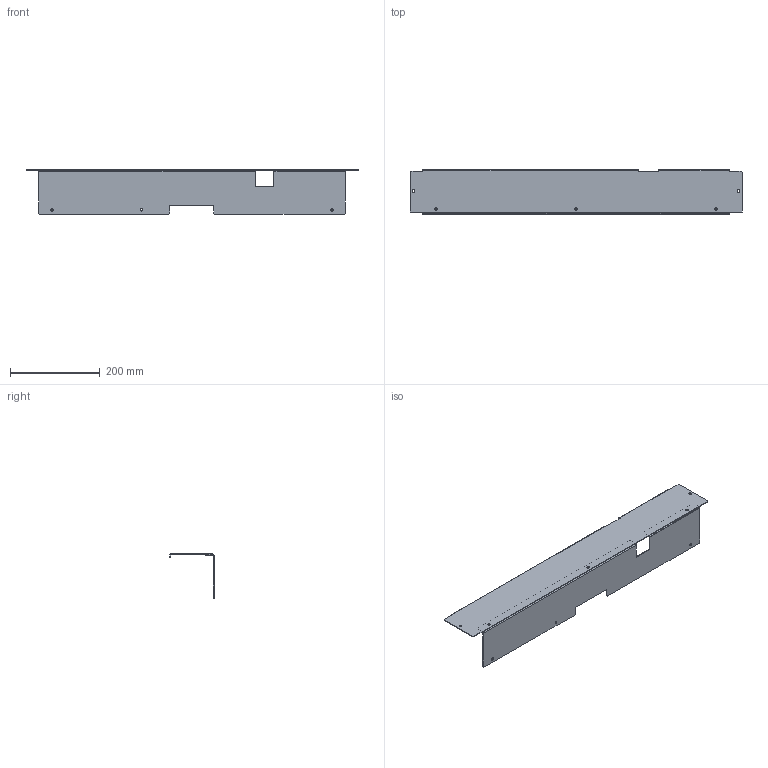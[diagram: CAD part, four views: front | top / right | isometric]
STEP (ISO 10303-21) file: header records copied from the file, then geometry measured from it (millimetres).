
FILE_DESCRIPTION(('CAx-IF Rec.Pracs.---Model Styling and Organization---1.2---2011-12-15','CAx-IF Rec.Pracs.---Geometric and Assembly Validation Properties---4.1---2014-06-16','CAx-IF Rec.Pracs.---PMI Polyline Presentation---2.0---2013-05-24'),'2;1');
FILE_NAME('R5M2CCS820.stp','2021-05-05T11:52:41+03:00',(''),(''),'STEP Interface 4.4 by CT CoreTechnologie','3D_Evolution4.4 by CT CoreTechnologie','');
FILE_SCHEMA(('AUTOMOTIVE_DESIGN { 1 0 10303 214 1 1 1 1 }'));
Length unit declared in the file: millimetre
Products named in the file (3): R5M2CCS820; RB.0856.00.00.1_-00; RB.0859.00.00.0_-00
Assembly tree (2 placements, depth 2):
  R5M2CCS820
    RB.0856.00.00.1_-00
    RB.0859.00.00.0_-00
Bounding box: 741 x 98.5 x 98.5 mm (x, y, z)
Surface area: 302960.9 mm2 (no closed solid volume)
Topology: 0 solids, 2 shells, 82 faces, 234 edges, 156 vertices
Faces by surface type: plane 52, cylinder 30
Entity records: 2840 total; most frequent: CARTESIAN_POINT 475, ORIENTED_EDGE 468, DIRECTION 464, EDGE_CURVE 234, VECTOR 174, LINE 174, VERTEX_POINT 156, AXIS2_PLACEMENT_3D 145
